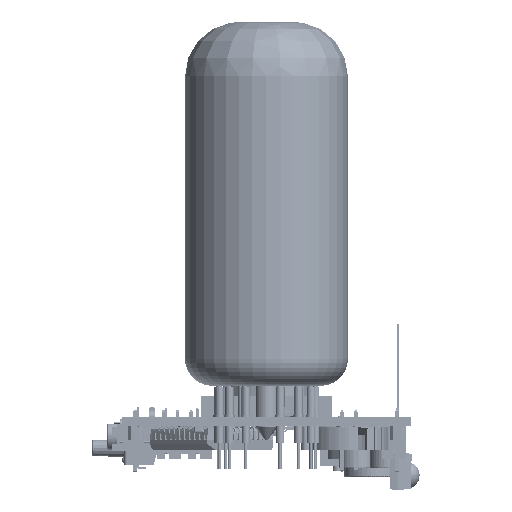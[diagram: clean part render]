
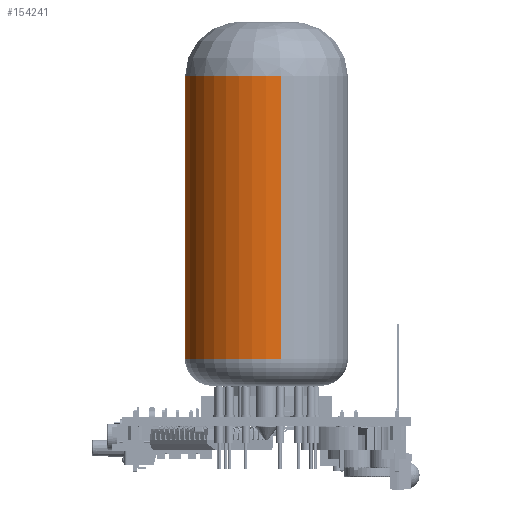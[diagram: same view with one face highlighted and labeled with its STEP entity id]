
A CAD part, left-side view. The second image highlights one B-rep face of the part: STEP entity #154241.
In plain terms, the highlighted cylindrical face has radius 15 mm (diameter 30 mm), a partial arc.
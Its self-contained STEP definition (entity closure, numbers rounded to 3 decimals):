
#154157 = VERTEX_POINT('',#154158);
#154158 = CARTESIAN_POINT('',(4.228,24.025,
    10.809));
#154165 = EDGE_CURVE('',#154166,#154157,#154168,.T.);
#154166 = VERTEX_POINT('',#154167);
#154167 = CARTESIAN_POINT('',(33.772,29.235,
    10.809));
#154168 = CIRCLE('',#154169,15.);
#154169 = AXIS2_PLACEMENT_3D('',#154170,#154171,#154172);
#154170 = CARTESIAN_POINT('',(19.,26.63,
    10.809));
#154171 = DIRECTION('',(0.,0.,1.));
#154172 = DIRECTION('',(0.985,0.174,
    0.));
#154189 = EDGE_CURVE('',#154190,#154192,#154194,.T.);
#154190 = VERTEX_POINT('',#154191);
#154191 = CARTESIAN_POINT('',(4.228,24.025,
    62.809));
#154192 = VERTEX_POINT('',#154193);
#154193 = CARTESIAN_POINT('',(33.772,29.235,
    62.809));
#154194 = CIRCLE('',#154195,15.);
#154195 = AXIS2_PLACEMENT_3D('',#154196,#154197,#154198);
#154196 = CARTESIAN_POINT('',(19.,26.63,
    62.809));
#154197 = DIRECTION('',(0.,0.,-1.));
#154198 = DIRECTION('',(0.985,0.174,
    0.));
#154241 = ADVANCED_FACE('',(#154242),#154258,.T.);
#154242 = FACE_BOUND('',#154243,.T.);
#154243 = EDGE_LOOP('',(#154244,#154245,#154251,#154252));
#154244 = ORIENTED_EDGE('',*,*,#154189,.T.);
#154245 = ORIENTED_EDGE('',*,*,#154246,.T.);
#154246 = EDGE_CURVE('',#154192,#154166,#154247,.T.);
#154247 = LINE('',#154248,#154249);
#154248 = CARTESIAN_POINT('',(33.772,29.235,
    72.809));
#154249 = VECTOR('',#154250,1.);
#154250 = DIRECTION('',(0.,0.,-1.));
#154251 = ORIENTED_EDGE('',*,*,#154165,.T.);
#154252 = ORIENTED_EDGE('',*,*,#154253,.F.);
#154253 = EDGE_CURVE('',#154190,#154157,#154254,.T.);
#154254 = LINE('',#154255,#154256);
#154255 = CARTESIAN_POINT('',(4.228,24.025,
    72.809));
#154256 = VECTOR('',#154257,1.);
#154257 = DIRECTION('',(0.,0.,-1.));
#154258 = CYLINDRICAL_SURFACE('',#154259,15.);
#154259 = AXIS2_PLACEMENT_3D('',#154260,#154261,#154262);
#154260 = CARTESIAN_POINT('',(19.,26.63,
    72.809));
#154261 = DIRECTION('',(0.,0.,-1.));
#154262 = DIRECTION('',(-0.985,-0.174,
    0.));
